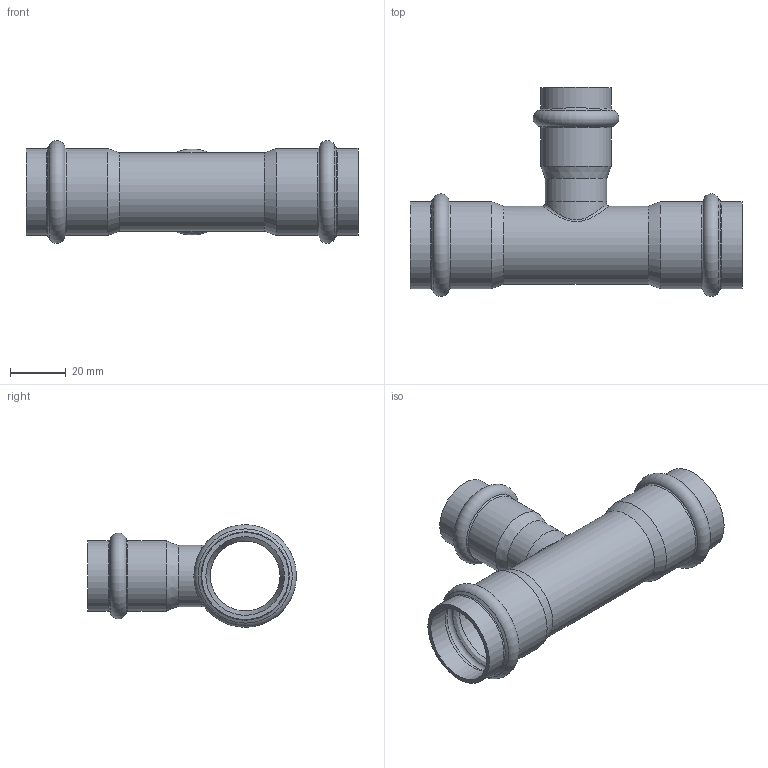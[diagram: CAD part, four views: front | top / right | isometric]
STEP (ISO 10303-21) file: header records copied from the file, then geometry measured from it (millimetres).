
FILE_DESCRIPTION((''),'2;1');
FILE_NAME('G:\Technics\CAD\Bauteile\028\69130282228(2).stp','2008-02-26T12:02:36',('herberg'),(''),'Autodesk Inventor 2008','Autodesk Inventor 2008','');
FILE_SCHEMA(('AUTOMOTIVE_DESIGN { 1 0 10303 214 1 1 1 1 }'));
Length unit declared in the file: millimetre
Products named in the file (3): 69130282228(2); LM_69130282228(0); 6924322HM(1)
Assembly tree (2 placements, depth 2):
  69130282228(2)
    LM_69130282228(0)
    6924322HM(1)
Bounding box: 119 x 74.89 x 36.79 mm (x, y, z)
Volume: 21619.7 mm3; surface area: 29405.1 mm2
Topology: 2 solids, 2 shells, 55 faces, 115 edges, 64 vertices
Faces by surface type: cylinder 18, bspline 13, cone 12, torus 7, plane 5
Full cylindrical faces by diameter (mm): 19 x2, 22 x2, 22.15 x2, 25 x1, 25.15 x2, 28 x1, 28.2 x4, 31.2 x4
Entity records: 3004 total; most frequent: CARTESIAN_POINT 2023, DIRECTION 200, ORIENTED_EDGE 116, EDGE_LOOP 110, AXIS2_PLACEMENT_3D 100, EDGE_CURVE 58, VERTEX_POINT 56, FACE_OUTER_BOUND 55
